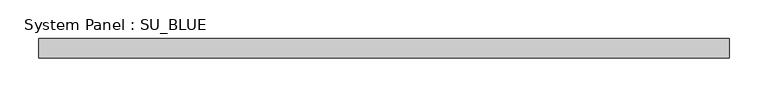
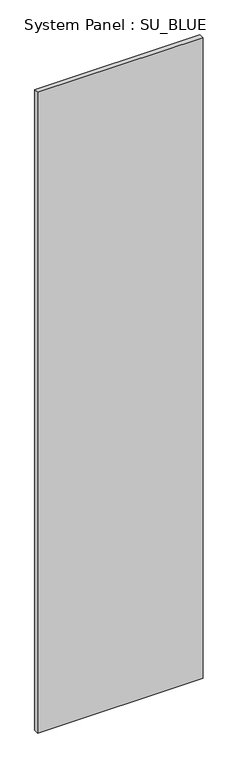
"""IFC4 building model written with IfcOpenShell, lengths in millimetres: plate geometry, System Panel : SU_BLUE."""

from ifc_helpers import new_model, si_unit, origin, origin_with_axes, place, context, project, spatial, polyline, outline, extrude, source, transform, mapped, element, save


def system_panel_su_blue_cfd944bc(model_context):
    return source(origin(), model_context, "Body", "SweptSolid", [
        extrude(outline(polyline([(447.1096078, 19.05), (-447.1096078, 19.05), (-447.1096078, 44.45), (447.1096078, 44.45), (447.1096078, 19.05)])), origin_with_axes(), (0.0, 0.0, 1.0), 3657.6),
    ])


if __name__ == "__main__":
    model = new_model("IFC4")
    model_context = context("Model", 3, world=origin())
    ifc_project = project(units=[si_unit("LENGTHUNIT", "METRE", prefix="MILLI")], contexts=[model_context])
    site = spatial("IfcSite", under=ifc_project)
    building = spatial("IfcBuilding", under=site)
    placement = place(None, origin())
    system_panel_su_blue_shape = system_panel_su_blue_cfd944bc(model_context)
    element("IfcPlate", 1, ObjectType="System Panel : SU_BLUE", at=placement, inside=building, context=model_context, shape_type="MappedRepresentation", body=[
        mapped(system_panel_su_blue_shape, transform((0.0, 0.0, 0.0), x_axis=(1.0, 0.0, 0.0), y_axis=(0.0, 1.0, 0.0), z_axis=(0.0, 0.0, 1.0))),
    ])
    save(model, "model.ifc")
